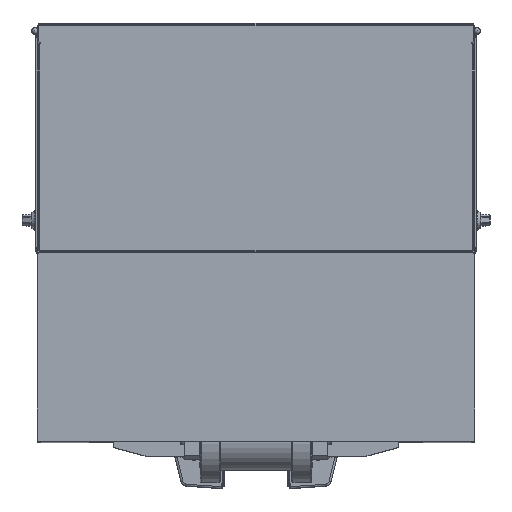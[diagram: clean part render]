
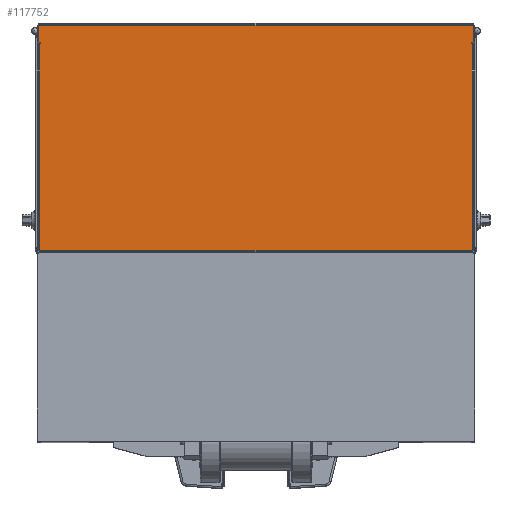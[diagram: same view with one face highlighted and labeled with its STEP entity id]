
A CAD part, top view. The second image highlights one B-rep face of the part: STEP entity #117752.
In plain terms, the highlighted planar face has unit normal (0, 0, 1).
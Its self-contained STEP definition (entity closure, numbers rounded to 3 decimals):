
#10711=LINE('',#196297,#20417);
#10712=LINE('',#196299,#20418);
#10713=LINE('',#196301,#20419);
#10714=LINE('',#196303,#20420);
#10715=LINE('',#196305,#20421);
#10716=LINE('',#196307,#20422);
#10717=LINE('',#196309,#20423);
#10718=LINE('',#196311,#20424);
#10719=LINE('',#196313,#20425);
#10720=LINE('',#196315,#20426);
#10721=LINE('',#196317,#20427);
#10722=LINE('',#196319,#20428);
#10723=LINE('',#196321,#20429);
#10724=LINE('',#196322,#20430);
#20417=VECTOR('',#147766,696.6);
#20418=VECTOR('',#147767,333.6);
#20419=VECTOR('',#147768,0.8);
#20420=VECTOR('',#147769,1.6);
#20421=VECTOR('',#147770,4.);
#20422=VECTOR('',#147771,28.4);
#20423=VECTOR('',#147772,3.2);
#20424=VECTOR('',#147773,696.6);
#20425=VECTOR('',#147774,3.2);
#20426=VECTOR('',#147775,28.4);
#20427=VECTOR('',#147776,4.);
#20428=VECTOR('',#147777,1.6);
#20429=VECTOR('',#147778,0.8);
#20430=VECTOR('',#147779,333.6);
#29761=FACE_OUTER_BOUND('',#36550,.T.);
#36550=EDGE_LOOP('',(#89336,#89337,#89338,#89339,#89340,#89341,#89342,#89343,
#89344,#89345,#89346,#89347,#89348,#89349));
#49886=VERTEX_POINT('',#196295);
#49887=VERTEX_POINT('',#196296);
#49888=VERTEX_POINT('',#196298);
#49889=VERTEX_POINT('',#196300);
#49890=VERTEX_POINT('',#196302);
#49891=VERTEX_POINT('',#196304);
#49892=VERTEX_POINT('',#196306);
#49893=VERTEX_POINT('',#196308);
#49894=VERTEX_POINT('',#196310);
#49895=VERTEX_POINT('',#196312);
#49896=VERTEX_POINT('',#196314);
#49897=VERTEX_POINT('',#196316);
#49898=VERTEX_POINT('',#196318);
#49899=VERTEX_POINT('',#196320);
#63756=EDGE_CURVE('',#49886,#49887,#10711,.T.);
#63757=EDGE_CURVE('',#49887,#49888,#10712,.T.);
#63758=EDGE_CURVE('',#49888,#49889,#10713,.T.);
#63759=EDGE_CURVE('',#49889,#49890,#10714,.T.);
#63760=EDGE_CURVE('',#49890,#49891,#10715,.T.);
#63761=EDGE_CURVE('',#49892,#49891,#10716,.T.);
#63762=EDGE_CURVE('',#49893,#49892,#10717,.T.);
#63763=EDGE_CURVE('',#49894,#49893,#10718,.T.);
#63764=EDGE_CURVE('',#49895,#49894,#10719,.T.);
#63765=EDGE_CURVE('',#49896,#49895,#10720,.T.);
#63766=EDGE_CURVE('',#49896,#49897,#10721,.T.);
#63767=EDGE_CURVE('',#49897,#49898,#10722,.T.);
#63768=EDGE_CURVE('',#49898,#49899,#10723,.T.);
#63769=EDGE_CURVE('',#49899,#49886,#10724,.T.);
#89336=ORIENTED_EDGE('',*,*,#63756,.T.);
#89337=ORIENTED_EDGE('',*,*,#63757,.T.);
#89338=ORIENTED_EDGE('',*,*,#63758,.T.);
#89339=ORIENTED_EDGE('',*,*,#63759,.T.);
#89340=ORIENTED_EDGE('',*,*,#63760,.T.);
#89341=ORIENTED_EDGE('',*,*,#63761,.F.);
#89342=ORIENTED_EDGE('',*,*,#63762,.F.);
#89343=ORIENTED_EDGE('',*,*,#63763,.F.);
#89344=ORIENTED_EDGE('',*,*,#63764,.F.);
#89345=ORIENTED_EDGE('',*,*,#63765,.F.);
#89346=ORIENTED_EDGE('',*,*,#63766,.T.);
#89347=ORIENTED_EDGE('',*,*,#63767,.T.);
#89348=ORIENTED_EDGE('',*,*,#63768,.T.);
#89349=ORIENTED_EDGE('',*,*,#63769,.T.);
#107119=PLANE('',#126629);
#117752=ADVANCED_FACE('',(#29761),#107119,.F.);
#126629=AXIS2_PLACEMENT_3D('',#196294,#147764,#147765);
#147764=DIRECTION('center_axis',(0.,0.,
-1.));
#147765=DIRECTION('ref_axis',(0.,-1.,0.));
#147766=DIRECTION('',(1.,0.,0.));
#147767=DIRECTION('',(0.,1.,0.));
#147768=DIRECTION('',(-1.,0.,0.));
#147769=DIRECTION('',(0.,1.,0.));
#147770=DIRECTION('',(1.,0.,0.));
#147771=DIRECTION('',(0.,-1.,0.));
#147772=DIRECTION('',(1.,0.,0.));
#147773=DIRECTION('',(1.,0.,0.));
#147774=DIRECTION('',(1.,0.,0.));
#147775=DIRECTION('',(0.,1.,0.));
#147776=DIRECTION('',(1.,0.,0.));
#147777=DIRECTION('',(0.,-1.,0.));
#147778=DIRECTION('',(-1.,0.,0.));
#147779=DIRECTION('',(0.,-1.,0.));
#196294=CARTESIAN_POINT('Origin',(0.,337.5,
847.4));
#196295=CARTESIAN_POINT('',(-348.3,155.7,847.4));
#196296=CARTESIAN_POINT('',(348.3,155.7,847.4));
#196297=CARTESIAN_POINT('',(-174.15,155.7,847.4));
#196298=CARTESIAN_POINT('',(348.3,489.3,847.4));
#196299=CARTESIAN_POINT('',(348.3,413.4,847.4));
#196300=CARTESIAN_POINT('',(347.5,489.3,847.4));
#196301=CARTESIAN_POINT('',(175.75,489.3,847.4));
#196302=CARTESIAN_POINT('',(347.5,490.9,847.4));
#196303=CARTESIAN_POINT('',(347.5,413.4,847.4));
#196304=CARTESIAN_POINT('',(351.5,490.9,847.4));
#196305=CARTESIAN_POINT('',(173.75,490.9,847.4));
#196306=CARTESIAN_POINT('',(351.5,519.3,847.4));
#196307=CARTESIAN_POINT('',(351.5,152.5,847.4));
#196308=CARTESIAN_POINT('',(348.3,519.3,847.4));
#196309=CARTESIAN_POINT('',(351.5,519.3,847.4));
#196310=CARTESIAN_POINT('',(-348.3,519.3,847.4));
#196311=CARTESIAN_POINT('',(351.5,519.3,847.4));
#196312=CARTESIAN_POINT('',(-351.5,519.3,847.4));
#196313=CARTESIAN_POINT('',(351.5,519.3,847.4));
#196314=CARTESIAN_POINT('',(-351.5,490.9,847.4));
#196315=CARTESIAN_POINT('',(-351.5,522.5,847.4));
#196316=CARTESIAN_POINT('',(-347.5,490.9,847.4));
#196317=CARTESIAN_POINT('',(-175.75,490.9,847.4));
#196318=CARTESIAN_POINT('',(-347.5,489.3,847.4));
#196319=CARTESIAN_POINT('',(-347.5,414.2,847.4));
#196320=CARTESIAN_POINT('',(-348.3,489.3,847.4));
#196321=CARTESIAN_POINT('',(-173.75,489.3,847.4));
#196322=CARTESIAN_POINT('',(-348.3,245.,847.4));
